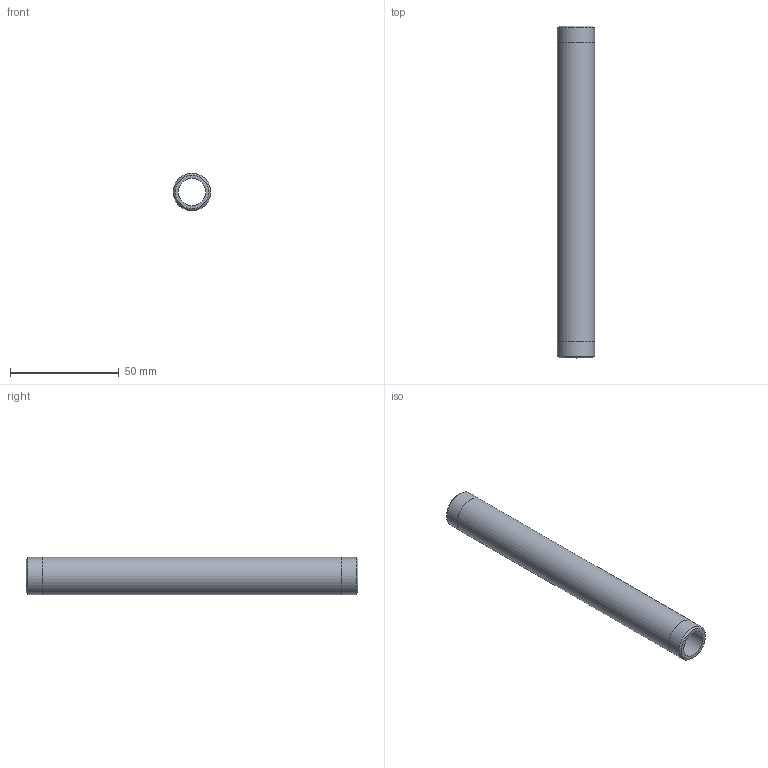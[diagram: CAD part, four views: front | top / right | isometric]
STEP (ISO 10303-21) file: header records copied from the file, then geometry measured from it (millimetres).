
FILE_DESCRIPTION(/* description */ (''),/* implementation_level */ '2;1');
FILE_NAME(/* name */ 'C:/Users/drich/Desktop/SSPN38-6 v1.step',/* time_stamp */ '2020-01-04T13:57:55-06:00',/* author */ (''),/* organization */ (''),/* preprocessor_version */ 'ST-DEVELOPER v18',/* originating_system */ 'Autodesk Translation Framework v8.12.0.6',/* authorisation */ '');
FILE_SCHEMA (('AUTOMOTIVE_DESIGN { 1 0 10303 214 3 1 1 }'));
Length unit declared in the file: inch
Products named in the file (1): SSPN38-6
Bounding box: 17.14 x 152.4 x 17.14 mm (x, y, z)
Volume: 16364.5 mm3; surface area: 14367.6 mm2
Topology: 1 solids, 1 shells, 10 faces, 24 edges, 18 vertices
Faces by surface type: cylinder 4, plane 4, cone 2
Full cylindrical faces by diameter (mm): 12.522 x1, 17.094 x2, 17.145 x1
Entity records: 353 total; most frequent: DIRECTION 64, CARTESIAN_POINT 53, ORIENTED_EDGE 48, AXIS2_PLACEMENT_3D 29, EDGE_CURVE 24, CIRCLE 18, VERTEX_POINT 18, EDGE_LOOP 14
